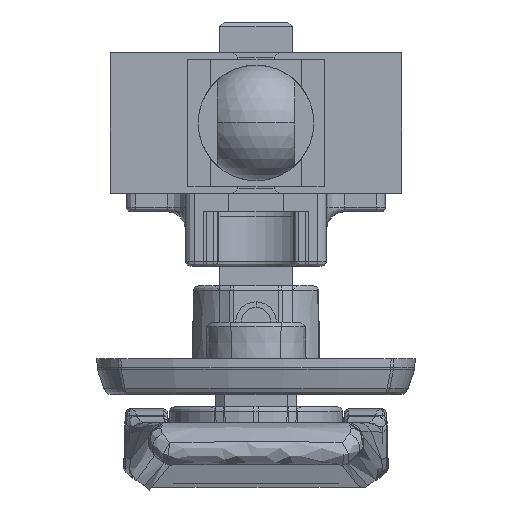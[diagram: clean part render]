
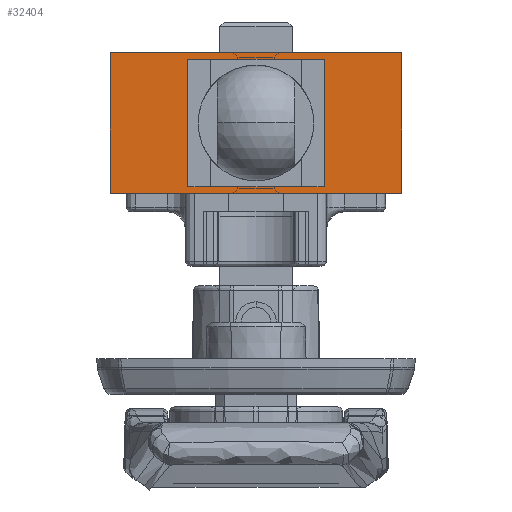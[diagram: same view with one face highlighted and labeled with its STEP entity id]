
A CAD part, front view. The second image highlights one B-rep face of the part: STEP entity #32404.
In plain terms, the highlighted planar face has unit normal (0, -1, 0).
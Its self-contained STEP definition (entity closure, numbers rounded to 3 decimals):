
#43 = CARTESIAN_POINT ( 'NONE',  ( 7., -72.75, 6.25 ) ) ;
#598 = DIRECTION ( 'NONE',  ( 0., 1., 0. ) ) ;
#1120 = FACE_BOUND ( 'NONE', #15353, .T. ) ;
#1194 = EDGE_CURVE ( 'NONE', #4194, #22688, #25413, .T. ) ;
#1606 = EDGE_CURVE ( 'NONE', #22688, #28483, #23618, .T. ) ;
#1670 = CARTESIAN_POINT ( 'NONE',  ( -16., -72.75, 7.75 ) ) ;
#1672 = DIRECTION ( 'NONE',  ( 0., 0., -1. ) ) ;
#1920 = CARTESIAN_POINT ( 'NONE',  ( -16., -72.75, 7.75 ) ) ;
#2222 = ORIENTED_EDGE ( 'NONE', *, *, #20765, .F. ) ;
#3128 = VECTOR ( 'NONE', #1672, 1000. ) ;
#4194 = VERTEX_POINT ( 'NONE', #19952 ) ;
#4659 = CARTESIAN_POINT ( 'NONE',  ( -7., -72.75, -6.25 ) ) ;
#4905 = CARTESIAN_POINT ( 'NONE',  ( 16., -72.75, 7.75 ) ) ;
#5043 = EDGE_CURVE ( 'NONE', #28483, #23223, #24497, .T. ) ;
#5121 = VERTEX_POINT ( 'NONE', #1920 ) ;
#5785 = EDGE_CURVE ( 'NONE', #23223, #4194, #23091, .T. ) ;
#7219 = LINE ( 'NONE', #4905, #8238 ) ;
#8238 = VECTOR ( 'NONE', #21153, 1000. ) ;
#8953 = FACE_OUTER_BOUND ( 'NONE', #24773, .T. ) ;
#9474 = LINE ( 'NONE', #19883, #12776 ) ;
#9597 = EDGE_CURVE ( 'NONE', #5121, #13191, #9474, .T. ) ;
#9604 = EDGE_CURVE ( 'NONE', #5121, #27618, #33911, .T. ) ;
#9621 = ORIENTED_EDGE ( 'NONE', *, *, #9604, .T. ) ;
#9633 = DIRECTION ( 'NONE',  ( 0., 0., -1. ) ) ;
#10304 = CARTESIAN_POINT ( 'NONE',  ( 16., -72.75, -7.75 ) ) ;
#10642 = EDGE_CURVE ( 'NONE', #27618, #23283, #34075, .T. ) ;
#11944 = CARTESIAN_POINT ( 'NONE',  ( -7., -72.75, -6.25 ) ) ;
#12776 = VECTOR ( 'NONE', #34082, 1000. ) ;
#13191 = VERTEX_POINT ( 'NONE', #18973 ) ;
#13305 = AXIS2_PLACEMENT_3D ( 'NONE', #30548, #598, #27713 ) ;
#15353 = EDGE_LOOP ( 'NONE', ( #21427, #25617, #31127, #21057 ) ) ;
#16723 = VECTOR ( 'NONE', #31431, 1000. ) ;
#17405 = CARTESIAN_POINT ( 'NONE',  ( 7., -72.75, 6.25 ) ) ;
#18973 = CARTESIAN_POINT ( 'NONE',  ( 16., -72.75, 7.75 ) ) ;
#19531 = PLANE ( 'NONE',  #13305 ) ;
#19883 = CARTESIAN_POINT ( 'NONE',  ( -16., -72.75, 7.75 ) ) ;
#19952 = CARTESIAN_POINT ( 'NONE',  ( -7., -72.75, 6.25 ) ) ;
#20765 = EDGE_CURVE ( 'NONE', #13191, #23283, #7219, .T. ) ;
#21057 = ORIENTED_EDGE ( 'NONE', *, *, #1606, .F. ) ;
#21153 = DIRECTION ( 'NONE',  ( 0., 0., -1. ) ) ;
#21354 = CARTESIAN_POINT ( 'NONE',  ( -7., -72.75, -6.25 ) ) ;
#21393 = CARTESIAN_POINT ( 'NONE',  ( 7., -72.75, -6.25 ) ) ;
#21427 = ORIENTED_EDGE ( 'NONE', *, *, #1194, .F. ) ;
#22688 = VERTEX_POINT ( 'NONE', #21354 ) ;
#23091 = LINE ( 'NONE', #17405, #16723 ) ;
#23223 = VERTEX_POINT ( 'NONE', #33539 ) ;
#23283 = VERTEX_POINT ( 'NONE', #10304 ) ;
#23565 = VECTOR ( 'NONE', #32290, 1000. ) ;
#23618 = LINE ( 'NONE', #4659, #32928 ) ;
#23624 = DIRECTION ( 'NONE',  ( 1., 0., 0. ) ) ;
#24497 = LINE ( 'NONE', #43, #23565 ) ;
#24773 = EDGE_LOOP ( 'NONE', ( #26391, #2222, #27781, #9621 ) ) ;
#25413 = LINE ( 'NONE', #11944, #3128 ) ;
#25617 = ORIENTED_EDGE ( 'NONE', *, *, #5785, .F. ) ;
#26265 = DIRECTION ( 'NONE',  ( 1., 0., 0. ) ) ;
#26391 = ORIENTED_EDGE ( 'NONE', *, *, #10642, .T. ) ;
#27618 = VERTEX_POINT ( 'NONE', #34175 ) ;
#27713 = DIRECTION ( 'NONE',  ( 0., 0., 1. ) ) ;
#27781 = ORIENTED_EDGE ( 'NONE', *, *, #9597, .F. ) ;
#28483 = VERTEX_POINT ( 'NONE', #21393 ) ;
#30211 = VECTOR ( 'NONE', #23624, 1000. ) ;
#30548 = CARTESIAN_POINT ( 'NONE',  ( -16., -72.75, 7.75 ) ) ;
#31127 = ORIENTED_EDGE ( 'NONE', *, *, #5043, .F. ) ;
#31431 = DIRECTION ( 'NONE',  ( -1., 0., 0. ) ) ;
#32290 = DIRECTION ( 'NONE',  ( 0., 0., 1. ) ) ;
#32404 = ADVANCED_FACE ( 'NONE', ( #1120, #8953 ), #19531, .F. ) ;
#32601 = VECTOR ( 'NONE', #9633, 1000. ) ;
#32928 = VECTOR ( 'NONE', #26265, 1000. ) ;
#33539 = CARTESIAN_POINT ( 'NONE',  ( 7., -72.75, 6.25 ) ) ;
#33911 = LINE ( 'NONE', #1670, #32601 ) ;
#34075 = LINE ( 'NONE', #34439, #30211 ) ;
#34082 = DIRECTION ( 'NONE',  ( 1., 0., 0. ) ) ;
#34175 = CARTESIAN_POINT ( 'NONE',  ( -16., -72.75, -7.75 ) ) ;
#34439 = CARTESIAN_POINT ( 'NONE',  ( -16., -72.75, -7.75 ) ) ;
